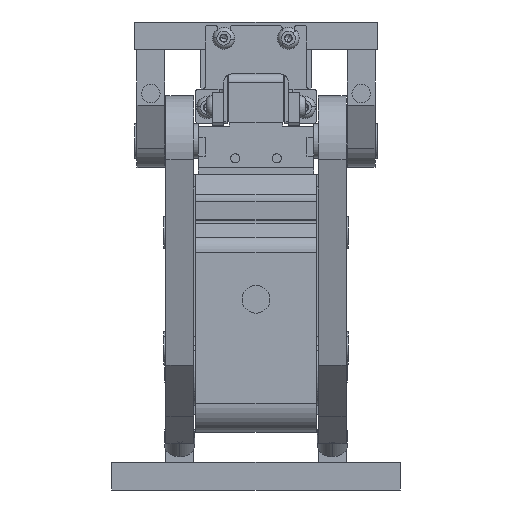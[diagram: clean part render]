
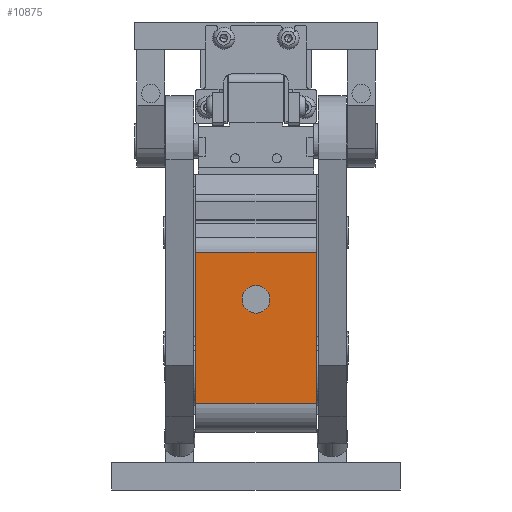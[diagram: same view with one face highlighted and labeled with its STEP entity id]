
A CAD part, left-side view. The second image highlights one B-rep face of the part: STEP entity #10875.
In plain terms, the highlighted planar face has unit normal (-1, 0, 0) as drawn and (0, 1, 0) by its records, which use the part's own axes.
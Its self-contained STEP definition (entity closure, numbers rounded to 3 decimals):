
#1046 = VERTEX_POINT ( 'NONE', #18158 ) ;
#2047 = VERTEX_POINT ( 'NONE', #3714 ) ;
#2448 = CARTESIAN_POINT ( 'NONE',  ( -14., 51.5, 26. ) ) ;
#3714 = CARTESIAN_POINT ( 'NONE',  ( 51.4, 51.5, -26. ) ) ;
#4708 = CARTESIAN_POINT ( 'NONE',  ( -14., 51.5, 27. ) ) ;
#4964 = LINE ( 'NONE', #5867, #24137 ) ;
#5819 = CARTESIAN_POINT ( 'NONE',  ( 31., 51.5, -4. ) ) ;
#5867 = CARTESIAN_POINT ( 'NONE',  ( -14., 51.5, -26. ) ) ;
#6166 = LINE ( 'NONE', #39469, #42312 ) ;
#6639 = DIRECTION ( 'NONE',  ( -1., 0., 0. ) ) ;
#8060 = EDGE_CURVE ( 'NONE', #20858, #22138, #52764, .T. ) ;
#8739 = DIRECTION ( 'NONE',  ( 0., -1., 0. ) ) ;
#9253 = VECTOR ( 'NONE', #6639, 1000. ) ;
#10875 = ADVANCED_FACE ( 'NONE', ( #46476, #28666 ), #36773, .F. ) ;
#12614 = DIRECTION ( 'NONE',  ( 0., 0., -1. ) ) ;
#14055 = AXIS2_PLACEMENT_3D ( 'NONE', #35385, #35049, #12614 ) ;
#14968 = CIRCLE ( 'NONE', #51835, 4. ) ;
#14980 = DIRECTION ( 'NONE',  ( 0., 0., -1. ) ) ;
#16695 = EDGE_LOOP ( 'NONE', ( #34215, #57783 ) ) ;
#18158 = CARTESIAN_POINT ( 'NONE',  ( 31., 51.5, 4. ) ) ;
#18654 = EDGE_CURVE ( 'NONE', #33177, #1046, #14968, .T. ) ;
#20858 = VERTEX_POINT ( 'NONE', #2448 ) ;
#21886 = LINE ( 'NONE', #26873, #9253 ) ;
#22138 = VERTEX_POINT ( 'NONE', #32548 ) ;
#24137 = VECTOR ( 'NONE', #33606, 1000. ) ;
#26873 = CARTESIAN_POINT ( 'NONE',  ( -14., 51.5, 26. ) ) ;
#27163 = DIRECTION ( 'NONE',  ( 0., 0., -1. ) ) ;
#27707 = ORIENTED_EDGE ( 'NONE', *, *, #8060, .F. ) ;
#27792 = EDGE_LOOP ( 'NONE', ( #30572, #27707, #59308, #39839 ) ) ;
#28666 = FACE_OUTER_BOUND ( 'NONE', #27792, .T. ) ;
#30572 = ORIENTED_EDGE ( 'NONE', *, *, #49230, .F. ) ;
#32548 = CARTESIAN_POINT ( 'NONE',  ( -14., 51.5, -26. ) ) ;
#33177 = VERTEX_POINT ( 'NONE', #5819 ) ;
#33606 = DIRECTION ( 'NONE',  ( 1., 0., 0. ) ) ;
#34215 = ORIENTED_EDGE ( 'NONE', *, *, #18654, .F. ) ;
#35049 = DIRECTION ( 'NONE',  ( 0., 1., 0. ) ) ;
#35385 = CARTESIAN_POINT ( 'NONE',  ( 31., 51.5, 0. ) ) ;
#36773 = PLANE ( 'NONE',  #55487 ) ;
#37666 = VERTEX_POINT ( 'NONE', #59191 ) ;
#39157 = DIRECTION ( 'NONE',  ( 0., 0., -1. ) ) ;
#39469 = CARTESIAN_POINT ( 'NONE',  ( 51.4, 51.5, 27. ) ) ;
#39839 = ORIENTED_EDGE ( 'NONE', *, *, #53876, .T. ) ;
#42312 = VECTOR ( 'NONE', #39157, 1000. ) ;
#45908 = CIRCLE ( 'NONE', #14055, 4. ) ;
#46476 = FACE_BOUND ( 'NONE', #16695, .T. ) ;
#47529 = EDGE_CURVE ( 'NONE', #1046, #33177, #45908, .T. ) ;
#49230 = EDGE_CURVE ( 'NONE', #22138, #2047, #4964, .T. ) ;
#49572 = EDGE_CURVE ( 'NONE', #37666, #20858, #21886, .T. ) ;
#50894 = DIRECTION ( 'NONE',  ( 0., 1., 0. ) ) ;
#51835 = AXIS2_PLACEMENT_3D ( 'NONE', #59898, #50894, #27163 ) ;
#52764 = LINE ( 'NONE', #58326, #59598 ) ;
#53876 = EDGE_CURVE ( 'NONE', #37666, #2047, #6166, .T. ) ;
#55487 = AXIS2_PLACEMENT_3D ( 'NONE', #4708, #8739, #55861 ) ;
#55861 = DIRECTION ( 'NONE',  ( 0., 0., -1. ) ) ;
#57783 = ORIENTED_EDGE ( 'NONE', *, *, #47529, .F. ) ;
#58326 = CARTESIAN_POINT ( 'NONE',  ( -14., 51.5, 27. ) ) ;
#59191 = CARTESIAN_POINT ( 'NONE',  ( 51.4, 51.5, 26. ) ) ;
#59308 = ORIENTED_EDGE ( 'NONE', *, *, #49572, .F. ) ;
#59598 = VECTOR ( 'NONE', #14980, 1000. ) ;
#59898 = CARTESIAN_POINT ( 'NONE',  ( 31., 51.5, 0. ) ) ;
